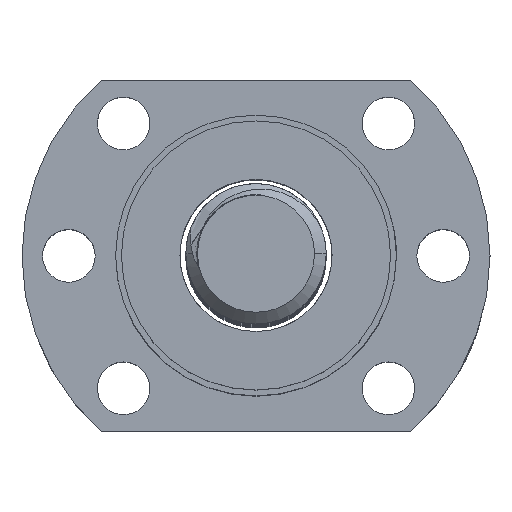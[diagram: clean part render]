
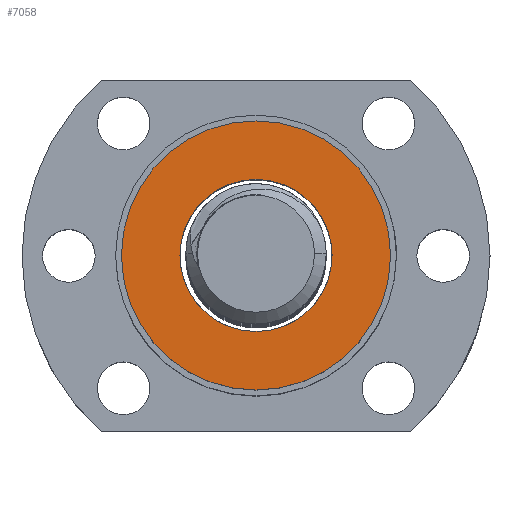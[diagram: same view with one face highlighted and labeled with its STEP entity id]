
A CAD part, top view. The second image highlights one B-rep face of the part: STEP entity #7058.
In plain terms, the highlighted planar face has unit normal (0, 0, 1) as drawn and (-1, 0, 0) by its records, which use the part's own axes.
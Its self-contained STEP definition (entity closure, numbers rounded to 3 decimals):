
#304 = ORIENTED_EDGE ( 'NONE', *, *, #11204, .T. ) ;
#1399 = ORIENTED_EDGE ( 'NONE', *, *, #9980, .T. ) ;
#1792 = CIRCLE ( 'NONE', #12211, 6.5 ) ;
#2210 = CARTESIAN_POINT ( 'NONE',  ( -45.5, 0., 11.5 ) ) ;
#3060 = PLANE ( 'NONE',  #9564 ) ;
#3764 = CARTESIAN_POINT ( 'NONE',  ( -45.5, 0., 0. ) ) ;
#3939 = DIRECTION ( 'NONE',  ( 1., 0., 0. ) ) ;
#4270 = AXIS2_PLACEMENT_3D ( 'NONE', #3764, #8390, #12864 ) ;
#4361 = VERTEX_POINT ( 'NONE', #7232 ) ;
#4483 = AXIS2_PLACEMENT_3D ( 'NONE', #9475, #7279, #14245 ) ;
#4736 = EDGE_LOOP ( 'NONE', ( #9644, #7645 ) ) ;
#5457 = EDGE_CURVE ( 'NONE', #6424, #12390, #10047, .T. ) ;
#6192 = CIRCLE ( 'NONE', #4483, 11.5 ) ;
#6424 = VERTEX_POINT ( 'NONE', #12941 ) ;
#6886 = DIRECTION ( 'NONE',  ( 0., 0., -1. ) ) ;
#6968 = CARTESIAN_POINT ( 'NONE',  ( -45.5, 0., 0. ) ) ;
#7058 = ADVANCED_FACE ( 'NONE', ( #11254, #10044 ), #3060, .F. ) ;
#7232 = CARTESIAN_POINT ( 'NONE',  ( -45.5, 0., 6.5 ) ) ;
#7279 = DIRECTION ( 'NONE',  ( 1., 0., 0. ) ) ;
#7645 = ORIENTED_EDGE ( 'NONE', *, *, #8058, .F. ) ;
#7700 = DIRECTION ( 'NONE',  ( 0., 1., 0. ) ) ;
#8058 = EDGE_CURVE ( 'NONE', #12390, #6424, #6192, .T. ) ;
#8390 = DIRECTION ( 'NONE',  ( 1., 0., 0. ) ) ;
#9475 = CARTESIAN_POINT ( 'NONE',  ( -45.5, 0., 0. ) ) ;
#9564 = AXIS2_PLACEMENT_3D ( 'NONE', #13526, #12324, #7700 ) ;
#9644 = ORIENTED_EDGE ( 'NONE', *, *, #5457, .F. ) ;
#9980 = EDGE_CURVE ( 'NONE', #4361, #12845, #10808, .T. ) ;
#10044 = FACE_BOUND ( 'NONE', #14750, .T. ) ;
#10047 = CIRCLE ( 'NONE', #13661, 11.5 ) ;
#10304 = DIRECTION ( 'NONE',  ( 1., 0., 0. ) ) ;
#10808 = CIRCLE ( 'NONE', #4270, 6.5 ) ;
#11204 = EDGE_CURVE ( 'NONE', #12845, #4361, #1792, .T. ) ;
#11254 = FACE_OUTER_BOUND ( 'NONE', #4736, .T. ) ;
#11309 = CARTESIAN_POINT ( 'NONE',  ( -45.5, 0., -6.5 ) ) ;
#12211 = AXIS2_PLACEMENT_3D ( 'NONE', #14181, #3939, #12819 ) ;
#12324 = DIRECTION ( 'NONE',  ( 1., 0., 0. ) ) ;
#12390 = VERTEX_POINT ( 'NONE', #2210 ) ;
#12819 = DIRECTION ( 'NONE',  ( 0., 0., -1. ) ) ;
#12845 = VERTEX_POINT ( 'NONE', #11309 ) ;
#12864 = DIRECTION ( 'NONE',  ( 0., 0., -1. ) ) ;
#12941 = CARTESIAN_POINT ( 'NONE',  ( -45.5, 0., -11.5 ) ) ;
#13526 = CARTESIAN_POINT ( 'NONE',  ( -45.5, 9., 0. ) ) ;
#13661 = AXIS2_PLACEMENT_3D ( 'NONE', #6968, #10304, #6886 ) ;
#14181 = CARTESIAN_POINT ( 'NONE',  ( -45.5, 0., 0. ) ) ;
#14245 = DIRECTION ( 'NONE',  ( 0., 0., -1. ) ) ;
#14750 = EDGE_LOOP ( 'NONE', ( #304, #1399 ) ) ;
